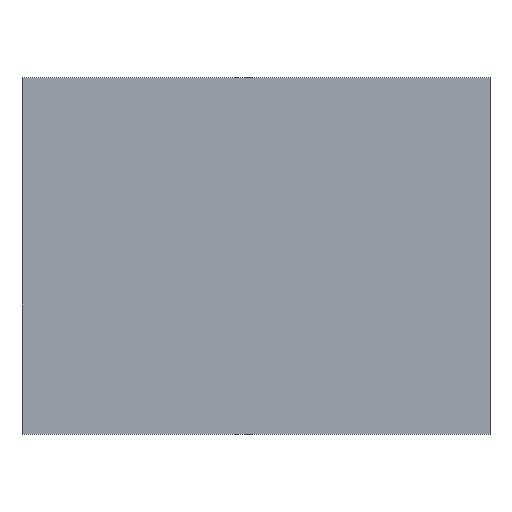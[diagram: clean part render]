
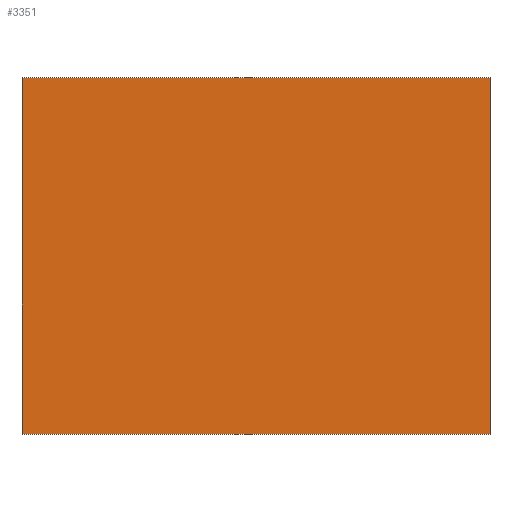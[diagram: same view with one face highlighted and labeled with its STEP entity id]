
A CAD part, top view. The second image highlights one B-rep face of the part: STEP entity #3351.
In plain terms, the highlighted planar face has unit normal (0, 0, 1).
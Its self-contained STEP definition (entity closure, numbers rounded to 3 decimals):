
#3215=CARTESIAN_POINT('Vertex',(105.,80.,30.)) ;
#3229=CARTESIAN_POINT('Vertex',(-105.,80.,30.)) ;
#3232=CARTESIAN_POINT('Line Origine',(0.,80.,30.)) ;
#3260=CARTESIAN_POINT('Vertex',(-105.,-80.,30.)) ;
#3263=CARTESIAN_POINT('Line Origine',(-105.,0.,30.)) ;
#3291=CARTESIAN_POINT('Vertex',(105.,-80.,30.)) ;
#3294=CARTESIAN_POINT('Line Origine',(0.,-80.,30.)) ;
#3316=CARTESIAN_POINT('Line Origine',(105.,0.,30.)) ;
#3340=CARTESIAN_POINT('Axis2P3D Location',(0.,0.,30.)) ;
#3233=DIRECTION('Vector Direction',(1.,0.,0.)) ;
#3264=DIRECTION('Vector Direction',(0.,1.,0.)) ;
#3295=DIRECTION('Vector Direction',(-1.,0.,0.)) ;
#3317=DIRECTION('Vector Direction',(0.,-1.,0.)) ;
#3341=DIRECTION('Axis2P3D Direction',(0.,0.,1.)) ;
#3342=DIRECTION('Axis2P3D XDirection',(1.,0.,0.)) ;
#3343=AXIS2_PLACEMENT_3D('Plane Axis2P3D',#3340,#3341,#3342) ;
#3346=ORIENTED_EDGE('',*,*,#3236,.T.) ;
#3347=ORIENTED_EDGE('',*,*,#3267,.T.) ;
#3348=ORIENTED_EDGE('',*,*,#3298,.T.) ;
#3349=ORIENTED_EDGE('',*,*,#3320,.T.) ;
#3234=VECTOR('Line Direction',#3233,1.) ;
#3265=VECTOR('Line Direction',#3264,1.) ;
#3296=VECTOR('Line Direction',#3295,1.) ;
#3318=VECTOR('Line Direction',#3317,1.) ;
#3351=ADVANCED_FACE('cavity',(#3350),#3344,.T.) ;
#3236=EDGE_CURVE('',#3216,#3230,#3235,.F.) ;
#3267=EDGE_CURVE('',#3230,#3261,#3266,.F.) ;
#3298=EDGE_CURVE('',#3261,#3292,#3297,.F.) ;
#3320=EDGE_CURVE('',#3292,#3216,#3319,.F.) ;
#3345=EDGE_LOOP('',(#3346,#3347,#3348,#3349)) ;
#3350=FACE_OUTER_BOUND('',#3345,.T.) ;
#3235=LINE('Line',#3232,#3234) ;
#3266=LINE('Line',#3263,#3265) ;
#3297=LINE('Line',#3294,#3296) ;
#3319=LINE('Line',#3316,#3318) ;
#3344=PLANE('Plane',#3343) ;
#3216=VERTEX_POINT('',#3215) ;
#3230=VERTEX_POINT('',#3229) ;
#3261=VERTEX_POINT('',#3260) ;
#3292=VERTEX_POINT('',#3291) ;
